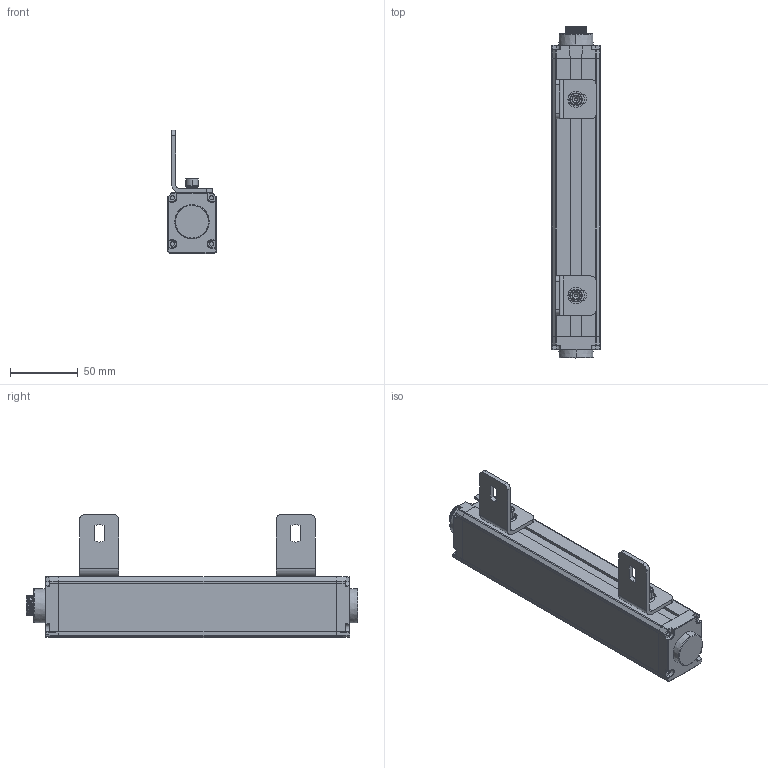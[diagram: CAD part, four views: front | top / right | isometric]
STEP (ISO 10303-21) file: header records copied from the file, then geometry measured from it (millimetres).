
FILE_DESCRIPTION((''),'2;1');
FILE_NAME('ESCL-00_ASM','2021-07-17T12:15:08',('18720616900'),(''),'CREO PARAMETRIC BY PTC INC, 2019010','CREO PARAMETRIC BY PTC INC, 2019010','');
FILE_SCHEMA(('CONFIG_CONTROL_DESIGN'));
Products named in the file (12): ESCL-00; ESCL-3-SOLID1000; ESCL-4-SOLID1000; HKCT1_-4-SOLID1; L10001; M6-8--0001; M6-1--00; M6-1-00; 00; M6-80001_ASM; L1--0001_ASM; ESCL-00_ASM
Assembly tree (12 placements, depth 4):
  ESCL-00_ASM
    ESCL-00
    ESCL-3-SOLID1000
    ESCL-4-SOLID1000
    HKCT1_-4-SOLID1
    L1--0001_ASM  x2
      L10001
      M6-80001_ASM
        M6-8--0001
        M6-1--00
        M6-1-00
        00
Bounding box: 36.1 x 245.1 x 91.11 mm (x, y, z)
Volume: 344762.1 mm3; surface area: 68108.3 mm2
Topology: 14 solids, 14 shells, 625 faces, 1645 edges, 1070 vertices
Faces by surface type: plane 226, cylinder 208, cone 78, bspline 66, torus 47
Entity records: 76177 total; most frequent: CARTESIAN_POINT 63991, ORIENTED_EDGE 2664, DIRECTION 2275, EDGE_CURVE 1332, VERTEX_POINT 872, AXIS2_PLACEMENT_3D 816, VECTOR 643, LINE 643
